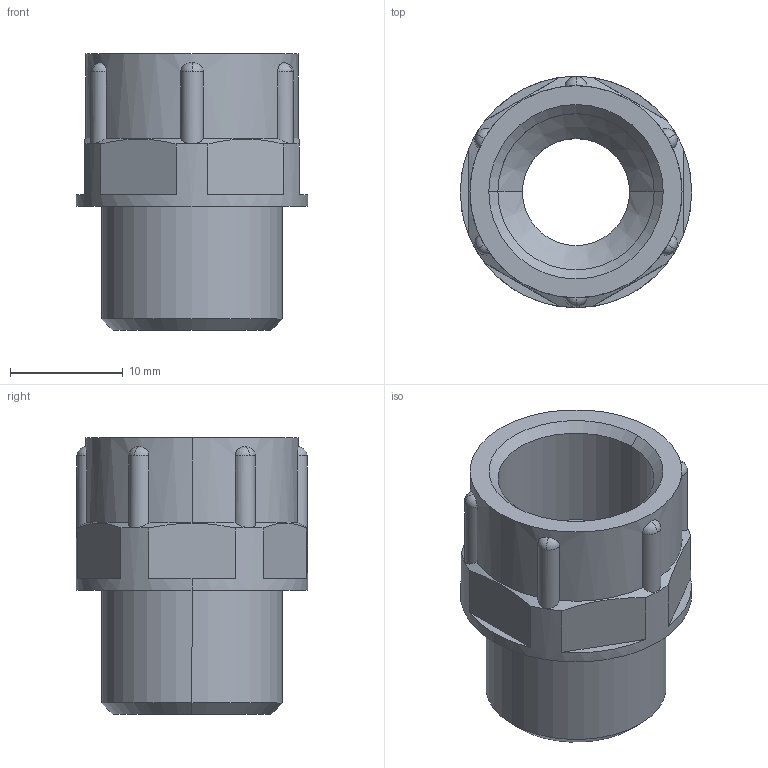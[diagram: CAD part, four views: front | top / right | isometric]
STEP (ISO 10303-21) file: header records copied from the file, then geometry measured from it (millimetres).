
FILE_DESCRIPTION (( 'STEP AP203' ), '1' );
FILE_NAME ('06309M16PAU.STEP', '2006-04-07T11:54:22', ( ' ' ), ( '' ), 'SwSTEP 2.0', 'SolidWorks 2005278', '' );
FILE_SCHEMA (( 'CONFIG_CONTROL_DESIGN' ));
Length unit declared in the file: millimetre
Products named in the file (1): 06309M16PAU
Bounding box: 20.5 x 20.5 x 24.5 mm (x, y, z)
Volume: 3526.7 mm3; surface area: 2707.4 mm2
Topology: 1 solids, 1 shells, 88 faces, 236 edges, 154 vertices
Faces by surface type: plane 52, cylinder 16, torus 12, cone 8
Entity records: 3027 total; most frequent: CARTESIAN_POINT 737, ORIENTED_EDGE 472, DIRECTION 448, EDGE_CURVE 236, VERTEX_POINT 154, VECTOR 150, LINE 150, AXIS2_PLACEMENT_3D 149
